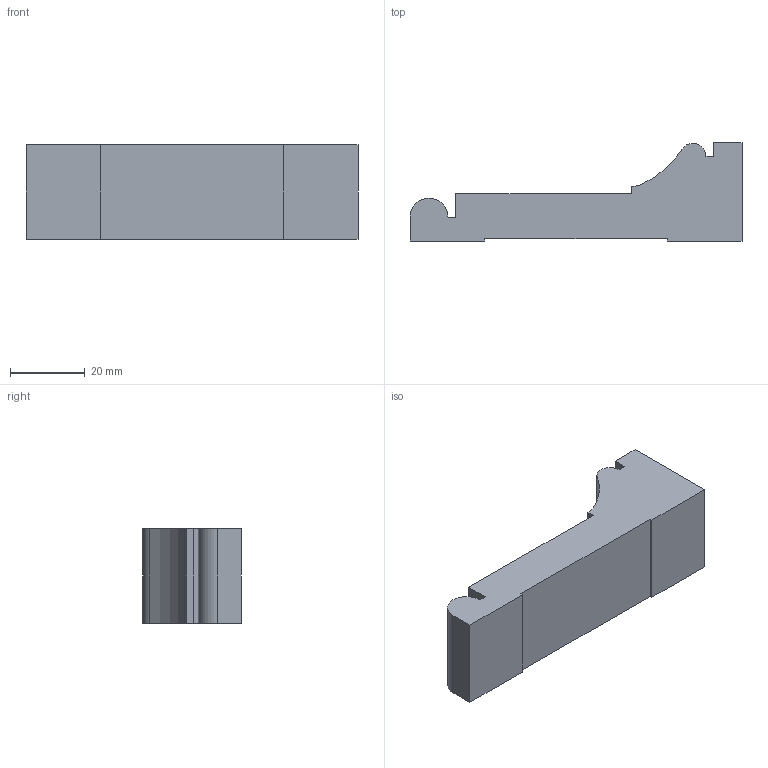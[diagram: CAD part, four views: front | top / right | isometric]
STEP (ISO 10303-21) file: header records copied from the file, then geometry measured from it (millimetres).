
FILE_DESCRIPTION (( 'STEP AP203' ), '1' );
FILE_NAME ('AB136-3FJ.STEP', '2023-08-25T14:16:25', ( '' ), ( '' ), 'SwSTEP 2.0', 'SolidWorks 2020', '' );
FILE_SCHEMA (( 'CONFIG_CONTROL_DESIGN' ));
Length unit declared in the file: inch
Products named in the file (1): AB136-3FJ
Bounding box: 89.13 x 26.37 x 25.4 mm (x, y, z)
Volume: 34161.2 mm3; surface area: 8693.4 mm2
Topology: 1 solids, 1 shells, 20 faces, 54 edges, 36 vertices
Faces by surface type: plane 16, cylinder 4
Entity records: 705 total; most frequent: CARTESIAN_POINT 111, ORIENTED_EDGE 108, DIRECTION 104, EDGE_CURVE 54, VECTOR 46, LINE 46, VERTEX_POINT 36, AXIS2_PLACEMENT_3D 29
